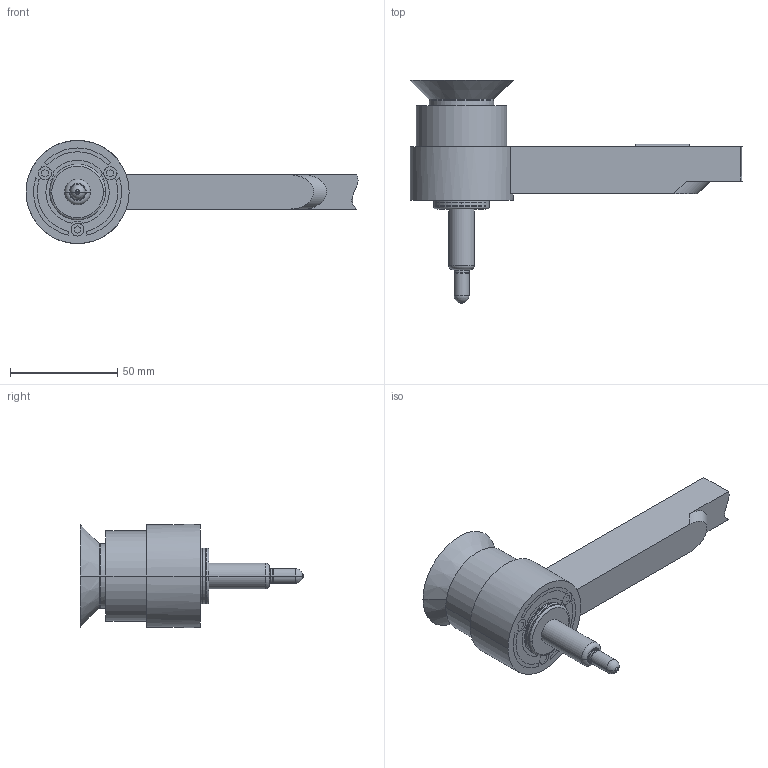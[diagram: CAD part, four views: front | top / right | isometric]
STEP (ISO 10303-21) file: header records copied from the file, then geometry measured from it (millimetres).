
FILE_DESCRIPTION((''),'2;1');
FILE_NAME('M03-055-2Z-10_ASM','2020-04-03T',('benoit'),(''),'PRO/ENGINEER BY PARAMETRIC TECHNOLOGY CORPORATION, 2007450','PRO/ENGINEER BY PARAMETRIC TECHNOLOGY CORPORATION, 2007450','');
FILE_SCHEMA(('CONFIG_CONTROL_DESIGN'));
Length unit declared in the file: millimetre
Products named in the file (12): CM03-055; PM03-F; EM03-P2; RM03-055; RA2Z-M; T2Z-32; BF03219; CAPOT-03219; 32X1_5E; VIS_CHCM4-12; M03-055-2Z-10-POCHE; M03-055-2Z-10_ASM
Assembly tree (13 placements, depth 2):
  M03-055-2Z-10_ASM
    CM03-055
    PM03-F
    EM03-P2
    RM03-055
    RA2Z-M
    T2Z-32
    BF03219
    CAPOT-03219
    32X1_5E
    VIS_CHCM4-12  x3
    M03-055-2Z-10-POCHE
Bounding box: 154.55 x 104.22 x 48 mm (x, y, z)
Volume: 182269.3 mm3; surface area: 54812.9 mm2
Topology: 13 solids, 13 shells, 481 faces, 1181 edges, 732 vertices
Faces by surface type: cylinder 173, plane 136, cone 84, torus 61, bspline 16, sphere 10, extrusion 1
Entity records: 18293 total; most frequent: CARTESIAN_POINT 7549, DIRECTION 2306, ORIENTED_EDGE 2162, EDGE_CURVE 1081, AXIS2_PLACEMENT_3D 959, VERTEX_POINT 678, CIRCLE 508, EDGE_LOOP 489
